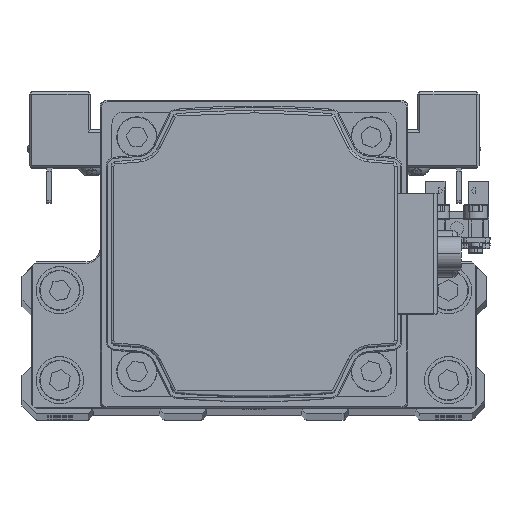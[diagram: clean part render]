
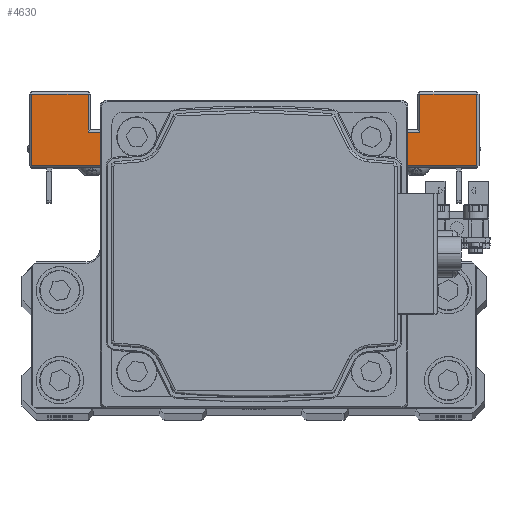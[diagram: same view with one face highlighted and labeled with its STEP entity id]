
A CAD part, top view. The second image highlights one B-rep face of the part: STEP entity #4630.
In plain terms, the highlighted planar face has unit normal (0, 0, 1) as drawn and (1, 0, 0) by its records, which use the part's own axes.
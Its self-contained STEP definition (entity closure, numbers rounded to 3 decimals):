
#426 = EDGE_CURVE ( 'NONE', #6266, #22791, #42010, .T. ) ;
#547 = ORIENTED_EDGE ( 'NONE', *, *, #426, .T. ) ;
#2016 = ORIENTED_EDGE ( 'NONE', *, *, #39854, .T. ) ;
#2164 = EDGE_CURVE ( 'NONE', #22791, #4393, #5593, .T. ) ;
#2698 = DIRECTION ( 'NONE',  ( 0., 0., 1. ) ) ;
#3383 = EDGE_CURVE ( 'NONE', #35971, #30975, #24320, .T. ) ;
#3574 = CARTESIAN_POINT ( 'NONE',  ( 47., -7.5, 20. ) ) ;
#3761 = VERTEX_POINT ( 'NONE', #5322 ) ;
#4393 = VERTEX_POINT ( 'NONE', #10402 ) ;
#4630 = ADVANCED_FACE ( 'NONE', ( #12097 ), #25219, .F. ) ;
#4733 = EDGE_CURVE ( 'NONE', #23024, #38830, #13159, .T. ) ;
#4914 = LINE ( 'NONE', #18030, #8578 ) ;
#4971 = ORIENTED_EDGE ( 'NONE', *, *, #25788, .T. ) ;
#5265 = VECTOR ( 'NONE', #2698, 1000. ) ;
#5322 = CARTESIAN_POINT ( 'NONE',  ( 47., 8., 20. ) ) ;
#5593 = LINE ( 'NONE', #18705, #25664 ) ;
#6266 = VERTEX_POINT ( 'NONE', #27215 ) ;
#6909 = LINE ( 'NONE', #20019, #40420 ) ;
#7768 = ORIENTED_EDGE ( 'NONE', *, *, #16280, .F. ) ;
#7994 = DIRECTION ( 'NONE',  ( 0., 0., -1. ) ) ;
#8578 = VECTOR ( 'NONE', #31113, 1000. ) ;
#8673 = VECTOR ( 'NONE', #13060, 1000. ) ;
#8874 = DIRECTION ( 'NONE',  ( -1., 0., 0. ) ) ;
#8946 = ORIENTED_EDGE ( 'NONE', *, *, #36931, .T. ) ;
#10112 = CARTESIAN_POINT ( 'NONE',  ( 47., 8., 47. ) ) ;
#10193 = LINE ( 'NONE', #23298, #15862 ) ;
#10402 = CARTESIAN_POINT ( 'NONE',  ( 47., 23., -35. ) ) ;
#10588 = CARTESIAN_POINT ( 'NONE',  ( 47., 8., 20. ) ) ;
#11008 = EDGE_CURVE ( 'NONE', #12631, #6266, #4914, .T. ) ;
#11315 = CARTESIAN_POINT ( 'NONE',  ( 47., 7.5, -20. ) ) ;
#11858 = ORIENTED_EDGE ( 'NONE', *, *, #33641, .T. ) ;
#12097 = FACE_OUTER_BOUND ( 'NONE', #42390, .T. ) ;
#12134 = VERTEX_POINT ( 'NONE', #10112 ) ;
#12609 = CARTESIAN_POINT ( 'NONE',  ( 47., 7.5, -47. ) ) ;
#12631 = VERTEX_POINT ( 'NONE', #33473 ) ;
#12654 = ORIENTED_EDGE ( 'NONE', *, *, #26181, .T. ) ;
#13060 = DIRECTION ( 'NONE',  ( 0., -1., 0. ) ) ;
#13159 = LINE ( 'NONE', #26258, #23609 ) ;
#14054 = VECTOR ( 'NONE', #41795, 1000. ) ;
#15612 = LINE ( 'NONE', #28712, #14054 ) ;
#15862 = VECTOR ( 'NONE', #36385, 1000. ) ;
#16280 = EDGE_CURVE ( 'NONE', #12631, #30975, #40721, .T. ) ;
#16562 = ORIENTED_EDGE ( 'NONE', *, *, #20869, .T. ) ;
#16739 = VECTOR ( 'NONE', #24434, 1000. ) ;
#18030 = CARTESIAN_POINT ( 'NONE',  ( 47., 8., -47. ) ) ;
#18705 = CARTESIAN_POINT ( 'NONE',  ( 47., 23., -20. ) ) ;
#19043 = LINE ( 'NONE', #32125, #5265 ) ;
#19414 = VERTEX_POINT ( 'NONE', #24798 ) ;
#20019 = CARTESIAN_POINT ( 'NONE',  ( 47., 7.5, 20. ) ) ;
#20869 = EDGE_CURVE ( 'NONE', #19414, #12134, #15612, .T. ) ;
#21980 = DIRECTION ( 'NONE',  ( 0., 0., 1. ) ) ;
#22791 = VERTEX_POINT ( 'NONE', #40551 ) ;
#22967 = ORIENTED_EDGE ( 'NONE', *, *, #3383, .T. ) ;
#23024 = VERTEX_POINT ( 'NONE', #25969 ) ;
#23298 = CARTESIAN_POINT ( 'NONE',  ( 47., 23., -20. ) ) ;
#23609 = VECTOR ( 'NONE', #39321, 1000. ) ;
#23702 = DIRECTION ( 'NONE',  ( 0., 0., -1. ) ) ;
#24269 = AXIS2_PLACEMENT_3D ( 'NONE', #38281, #8874, #21980 ) ;
#24320 = LINE ( 'NONE', #37395, #39730 ) ;
#24434 = DIRECTION ( 'NONE',  ( 0., -1., 0. ) ) ;
#24798 = CARTESIAN_POINT ( 'NONE',  ( 47., 23., 47. ) ) ;
#25219 = PLANE ( 'NONE',  #24269 ) ;
#25664 = VECTOR ( 'NONE', #31782, 1000. ) ;
#25719 = DIRECTION ( 'NONE',  ( 0., 1., 0. ) ) ;
#25788 = EDGE_CURVE ( 'NONE', #4393, #30111, #29384, .T. ) ;
#25969 = CARTESIAN_POINT ( 'NONE',  ( 47., 15., 35. ) ) ;
#26181 = EDGE_CURVE ( 'NONE', #30111, #23024, #19043, .T. ) ;
#26258 = CARTESIAN_POINT ( 'NONE',  ( 47., 7.5, 35. ) ) ;
#27215 = CARTESIAN_POINT ( 'NONE',  ( 47., 8., -47. ) ) ;
#28712 = CARTESIAN_POINT ( 'NONE',  ( 47., 7.5, 47. ) ) ;
#29297 = CARTESIAN_POINT ( 'NONE',  ( 47., -7.5, -20. ) ) ;
#29384 = LINE ( 'NONE', #37664, #8673 ) ;
#29675 = VECTOR ( 'NONE', #25719, 1000. ) ;
#30111 = VERTEX_POINT ( 'NONE', #39049 ) ;
#30928 = ORIENTED_EDGE ( 'NONE', *, *, #4733, .T. ) ;
#30975 = VERTEX_POINT ( 'NONE', #29297 ) ;
#31113 = DIRECTION ( 'NONE',  ( 0., 0., -1. ) ) ;
#31782 = DIRECTION ( 'NONE',  ( 0., 0., 1. ) ) ;
#32125 = CARTESIAN_POINT ( 'NONE',  ( 47., 15., -20. ) ) ;
#32277 = ORIENTED_EDGE ( 'NONE', *, *, #11008, .T. ) ;
#33098 = DIRECTION ( 'NONE',  ( 0., -1., 0. ) ) ;
#33473 = CARTESIAN_POINT ( 'NONE',  ( 47., 8., -20. ) ) ;
#33641 = EDGE_CURVE ( 'NONE', #12134, #3761, #40012, .T. ) ;
#34846 = CARTESIAN_POINT ( 'NONE',  ( 47., 23., 35. ) ) ;
#35971 = VERTEX_POINT ( 'NONE', #3574 ) ;
#36385 = DIRECTION ( 'NONE',  ( 0., 0., 1. ) ) ;
#36931 = EDGE_CURVE ( 'NONE', #3761, #35971, #6909, .T. ) ;
#37395 = CARTESIAN_POINT ( 'NONE',  ( 47., -7.5, -20. ) ) ;
#37664 = CARTESIAN_POINT ( 'NONE',  ( 47., 7.5, -35. ) ) ;
#38281 = CARTESIAN_POINT ( 'NONE',  ( 47., 7.5, -20. ) ) ;
#38830 = VERTEX_POINT ( 'NONE', #34846 ) ;
#39049 = CARTESIAN_POINT ( 'NONE',  ( 47., 15., -35. ) ) ;
#39321 = DIRECTION ( 'NONE',  ( 0., 1., 0. ) ) ;
#39730 = VECTOR ( 'NONE', #7994, 1000. ) ;
#39837 = VECTOR ( 'NONE', #23702, 1000. ) ;
#39854 = EDGE_CURVE ( 'NONE', #38830, #19414, #10193, .T. ) ;
#40012 = LINE ( 'NONE', #10588, #39837 ) ;
#40420 = VECTOR ( 'NONE', #33098, 1000. ) ;
#40551 = CARTESIAN_POINT ( 'NONE',  ( 47., 23., -47. ) ) ;
#40721 = LINE ( 'NONE', #11315, #16739 ) ;
#40864 = ORIENTED_EDGE ( 'NONE', *, *, #2164, .T. ) ;
#41795 = DIRECTION ( 'NONE',  ( 0., -1., 0. ) ) ;
#42010 = LINE ( 'NONE', #12609, #29675 ) ;
#42390 = EDGE_LOOP ( 'NONE', ( #7768, #32277, #547, #40864, #4971, #12654, #30928, #2016, #16562, #11858, #8946, #22967 ) ) ;
